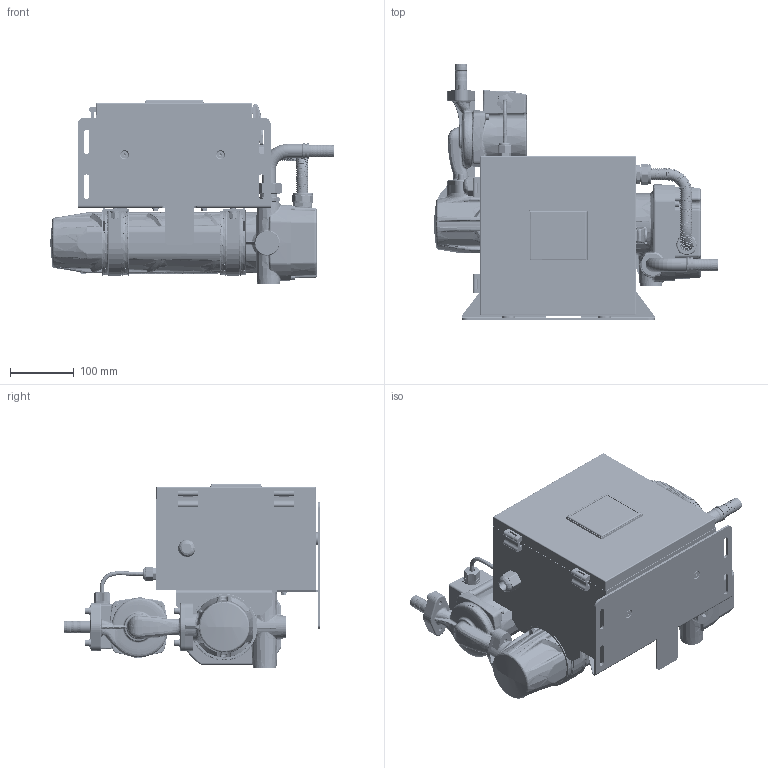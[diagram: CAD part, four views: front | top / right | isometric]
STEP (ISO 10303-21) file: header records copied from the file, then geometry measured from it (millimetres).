
FILE_DESCRIPTION(/* description */ (''),/* implementation_level */ '2;1');
FILE_NAME(/* name */ 'HWP90M WZ.stp',/* time_stamp */ '2023-06-01T15:22:14+08:00',/* author */ (''),/* organization */ (''),/* preprocessor_version */ 'ST-DEVELOPER v11',/* originating_system */ 'SIEMENS UGS NX 6.0',/* authorisation */ '');
FILE_SCHEMA (('AUTOMOTIVE_DESIGN { 1 0 10303 214 1 1 1 1 }'));
Products named in the file (1): AdmiF362kcer
Bounding box: 443.67 x 400.56 x 289.02 mm (x, y, z)
Volume: 14476479.5 mm3; surface area: 1049054.6 mm2
Topology: 1 solids, 45 shells, 6405 faces, 17108 edges, 10860 vertices
Faces by surface type: bspline 2089, plane 1700, cylinder 1661, cone 433, torus 419, sphere 77, extrusion 20, revolution 6
Full cylindrical faces by diameter (mm): 3.1 x2, 3.4 x2, 3.5 x2, 4.3 x4, 6.5 x2, 6.8 x1, 7 x2, 7.8 x1, 8 x2, 14.5 x1, 19.5 x3, 20 x2, 22.3 x1, 22.4 x1, 24.5 x1, 30.1 x1, 31 x1, 37.3 x1, 70.4 x1, 71 x1, 72 x1, 81 x1
Entity records: 473372 total; most frequent: CARTESIAN_POINT 290245, ORIENTED_EDGE 33682, DIRECTION 21409, EDGE_CURVE 16841, VERTEX_POINT 10814, AXIS2_PLACEMENT_3D 8465, B_SPLINE_CURVE_WITH_KNOTS 8057, EDGE_LOOP 6850
